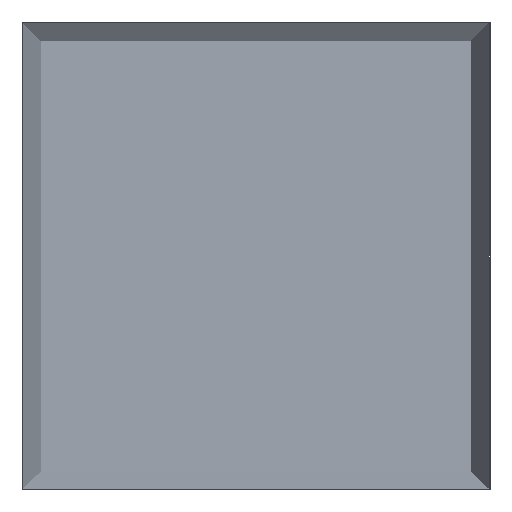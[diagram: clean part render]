
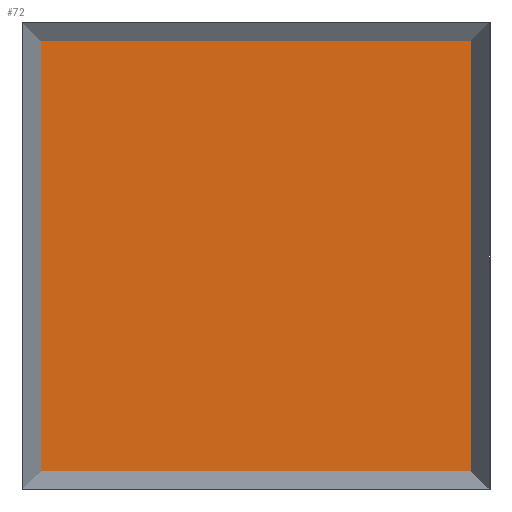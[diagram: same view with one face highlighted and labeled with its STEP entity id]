
A CAD part, front view. The second image highlights one B-rep face of the part: STEP entity #72.
In plain terms, the highlighted planar face has unit normal (0, -1, 0).
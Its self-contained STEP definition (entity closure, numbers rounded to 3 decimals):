
#1=DIRECTION('',(0.707,0.,-0.707));
#2=VECTOR('',#1,4.243);
#3=CARTESIAN_POINT('',(486.,17.3,-11.));
#4=LINE('',#3,#2);
#5=DIRECTION('',(0.,0.,-1.));
#6=VECTOR('',#5,472.);
#7=CARTESIAN_POINT('',(489.,17.3,-14.));
#8=LINE('',#7,#6);
#9=DIRECTION('',(-0.707,0.,-0.707));
#10=VECTOR('',#9,4.243);
#11=CARTESIAN_POINT('',(489.,17.3,-486.));
#12=LINE('',#11,#10);
#13=DIRECTION('',(-1.,0.,0.));
#14=VECTOR('',#13,472.);
#15=CARTESIAN_POINT('',(486.,17.3,-489.));
#16=LINE('',#15,#14);
#17=DIRECTION('',(-0.707,0.,0.707));
#18=VECTOR('',#17,4.243);
#19=CARTESIAN_POINT('',(14.,17.3,-489.));
#20=LINE('',#19,#18);
#21=DIRECTION('',(0.,0.,1.));
#22=VECTOR('',#21,472.);
#23=CARTESIAN_POINT('',(11.,17.3,-486.));
#24=LINE('',#23,#22);
#25=DIRECTION('',(0.707,0.,0.707));
#26=VECTOR('',#25,4.243);
#27=CARTESIAN_POINT('',(11.,17.3,-14.));
#28=LINE('',#27,#26);
#29=DIRECTION('',(1.,0.,0.));
#30=VECTOR('',#29,472.);
#31=CARTESIAN_POINT('',(14.,17.3,-11.));
#32=LINE('',#31,#30);
#33=CARTESIAN_POINT('',(489.,17.3,-14.));
#34=CARTESIAN_POINT('',(486.,17.3,-11.));
#35=VERTEX_POINT('',#33);
#36=VERTEX_POINT('',#34);
#37=CARTESIAN_POINT('',(14.,17.3,-11.));
#38=CARTESIAN_POINT('',(11.,17.3,-14.));
#39=VERTEX_POINT('',#37);
#40=VERTEX_POINT('',#38);
#41=CARTESIAN_POINT('',(486.,17.3,-489.));
#42=CARTESIAN_POINT('',(489.,17.3,-486.));
#43=VERTEX_POINT('',#41);
#44=VERTEX_POINT('',#42);
#45=CARTESIAN_POINT('',(11.,17.3,-486.));
#46=CARTESIAN_POINT('',(14.,17.3,-489.));
#47=VERTEX_POINT('',#45);
#48=VERTEX_POINT('',#46);
#49=CARTESIAN_POINT('',(250.,17.3,-250.));
#50=DIRECTION('',(0.,1.,0.));
#51=DIRECTION('',(1.,0.,0.));
#52=AXIS2_PLACEMENT_3D('',#49,#50,#51);
#53=PLANE('',#52);
#55=ORIENTED_EDGE('',*,*,#54,.T.);
#57=ORIENTED_EDGE('',*,*,#56,.T.);
#59=ORIENTED_EDGE('',*,*,#58,.T.);
#61=ORIENTED_EDGE('',*,*,#60,.T.);
#63=ORIENTED_EDGE('',*,*,#62,.T.);
#65=ORIENTED_EDGE('',*,*,#64,.T.);
#67=ORIENTED_EDGE('',*,*,#66,.T.);
#69=ORIENTED_EDGE('',*,*,#68,.T.);
#70=EDGE_LOOP('',(#55,#57,#59,#61,#63,#65,#67,#69));
#71=FACE_OUTER_BOUND('',#70,.F.);
#72=ADVANCED_FACE('',(#71),#53,.F.);
#54=EDGE_CURVE('',#36,#35,#4,.T.);
#56=EDGE_CURVE('',#35,#44,#8,.T.);
#58=EDGE_CURVE('',#44,#43,#12,.T.);
#60=EDGE_CURVE('',#43,#48,#16,.T.);
#62=EDGE_CURVE('',#48,#47,#20,.T.);
#64=EDGE_CURVE('',#47,#40,#24,.T.);
#66=EDGE_CURVE('',#40,#39,#28,.T.);
#68=EDGE_CURVE('',#39,#36,#32,.T.);
